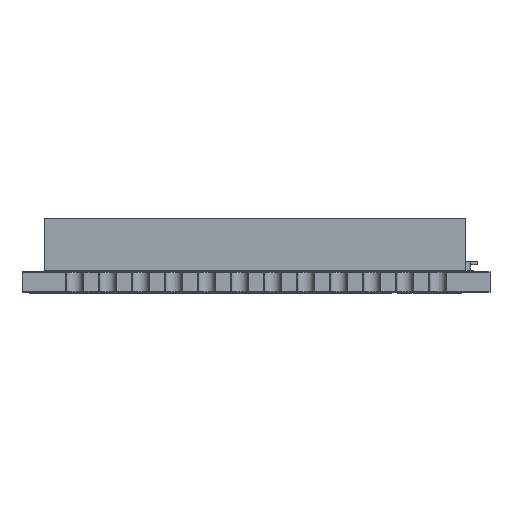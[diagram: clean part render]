
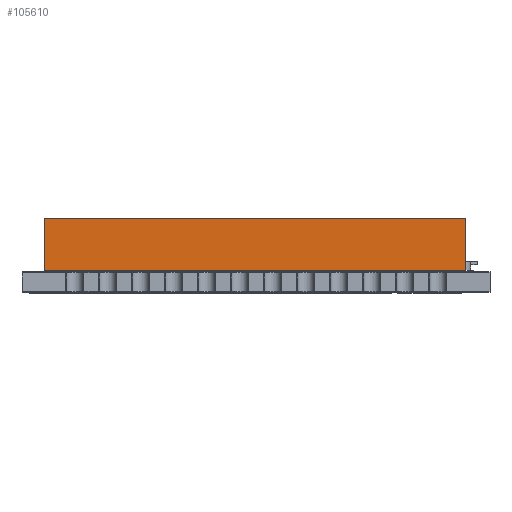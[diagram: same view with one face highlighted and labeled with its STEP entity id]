
A CAD part, front view. The second image highlights one B-rep face of the part: STEP entity #105610.
In plain terms, the highlighted planar face has unit normal (0, -1, 0).
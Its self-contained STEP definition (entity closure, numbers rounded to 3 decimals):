
#6457=FACE_OUTER_BOUND('',#11411,.T.);
#11411=EDGE_LOOP('',(#80780,#80781,#80782,#80783));
#16106=LINE('',#142247,#30322);
#18092=LINE('',#155771,#32308);
#18099=LINE('',#155782,#32315);
#18100=LINE('',#155784,#32316);
#30322=VECTOR('',#116969,1.);
#32308=VECTOR('',#120189,1.);
#32315=VECTOR('',#120200,1.);
#32316=VECTOR('',#120203,1.);
#43974=VERTEX_POINT('',#142244);
#43975=VERTEX_POINT('',#142246);
#46067=VERTEX_POINT('',#155768);
#46068=VERTEX_POINT('',#155770);
#56782=EDGE_CURVE('',#43974,#43975,#16106,.T.);
#59904=EDGE_CURVE('',#46068,#46067,#18092,.T.);
#59911=EDGE_CURVE('',#46068,#43974,#18099,.T.);
#59912=EDGE_CURVE('',#46067,#43975,#18100,.T.);
#80780=ORIENTED_EDGE('',*,*,#59904,.T.);
#80781=ORIENTED_EDGE('',*,*,#59912,.T.);
#80782=ORIENTED_EDGE('',*,*,#56782,.F.);
#80783=ORIENTED_EDGE('',*,*,#59911,.F.);
#101109=PLANE('',#110328);
#105610=ADVANCED_FACE('',(#6457),#101109,.T.);
#110328=AXIS2_PLACEMENT_3D('',#155783,#120201,#120202);
#116969=DIRECTION('',(1.,0.,0.));
#120189=DIRECTION('',(1.,0.,0.));
#120200=DIRECTION('',(0.,0.,1.));
#120201=DIRECTION('center_axis',(0.,-1.,0.));
#120202=DIRECTION('ref_axis',(1.,0.,0.));
#120203=DIRECTION('',(0.,0.,1.));
#142244=CARTESIAN_POINT('',(0.,0.,2.5));
#142246=CARTESIAN_POINT('',(16.2,0.,2.5));
#142247=CARTESIAN_POINT('',(0.,0.,2.5));
#155768=CARTESIAN_POINT('',(16.2,0.,0.5));
#155770=CARTESIAN_POINT('',(0.,0.,0.5));
#155771=CARTESIAN_POINT('',(4.05,0.,0.5));
#155782=CARTESIAN_POINT('',(0.,0.,0.));
#155783=CARTESIAN_POINT('Origin',(0.,0.,0.));
#155784=CARTESIAN_POINT('',(16.2,0.,0.));
